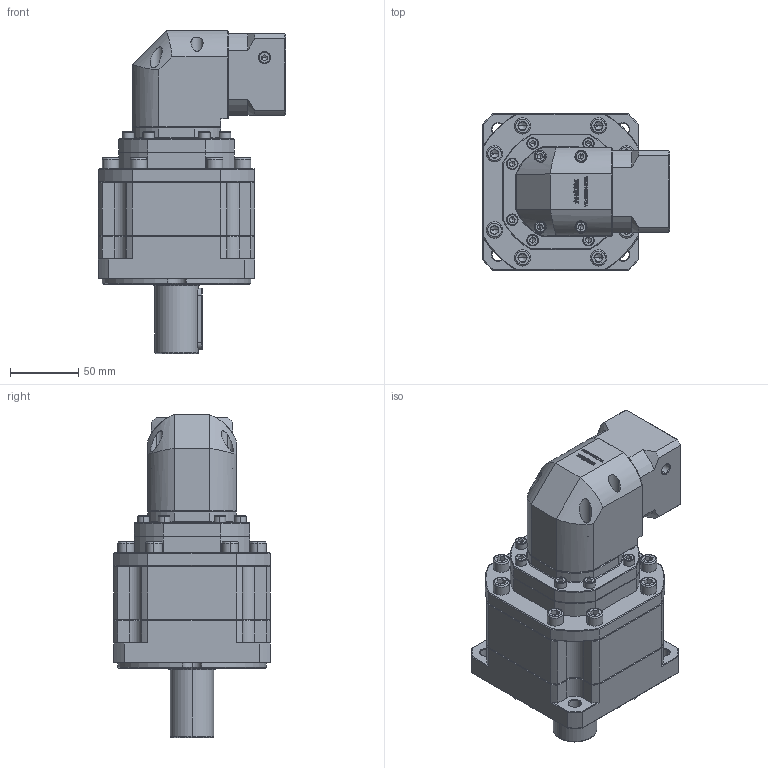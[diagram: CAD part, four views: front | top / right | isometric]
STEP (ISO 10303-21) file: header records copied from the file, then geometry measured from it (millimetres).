
FILE_DESCRIPTION (( 'STEP AP214' ), '1' );
FILE_NAME ('ZB115A-D32-L3-6.35-38.1-47.14x47.14-M4.step', '2023-03-03T08:04:38', ( '' ), ( 'Microsoft' ), 'SwSTEP 2.0', 'SolidWorks 2016', '' );
FILE_SCHEMA (( 'AUTOMOTIVE_DESIGN' ));
Length unit declared in the file: millimetre
Products named in the file (1): ZB115A-D32-L3-6.35-38.1-47.14x47.14-M4
Bounding box: 137.7 x 115 x 237.5 mm (x, y, z)
Volume: 1572596.8 mm3; surface area: 147386.3 mm2
Topology: 6 solids, 6 shells, 3235 faces, 8587 edges, 5515 vertices
Faces by surface type: plane 1720, bspline 637, cylinder 479, cone 391, torus 8
Entity records: 168682 total; most frequent: CARTESIAN_POINT 57637, ORIENTED_EDGE 17050, DIRECTION 13260, EDGE_CURVE 8525, VECTOR 5664, LINE 5664, VERTEX_POINT 5515, AXIS2_PLACEMENT_3D 3798
